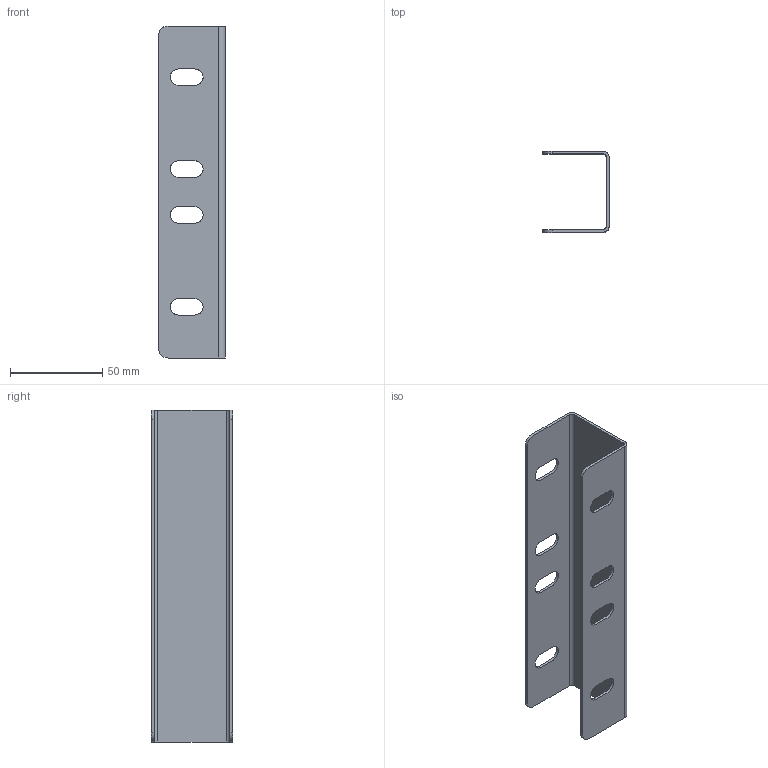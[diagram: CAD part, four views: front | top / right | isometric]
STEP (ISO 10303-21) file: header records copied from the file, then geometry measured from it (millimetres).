
FILE_DESCRIPTION(/* description */ (''),/* implementation_level */ '2;1');
FILE_NAME(/* name */ 'SSPM',/* time_stamp */ '2025-03-13T21:11:39+01:00',/* author */ (''),/* organization */ (''),/* preprocessor_version */ 'ST-DEVELOPER v16.5',/* originating_system */ '',/* authorisation */ '');
FILE_SCHEMA (('CONFIG_CONTROL_DESIGN'));
Length unit declared in the file: millimetre
Products named in the file (1): Document
Bounding box: 36 x 44 x 180 mm (x, y, z)
Volume: 28143.4 mm3; surface area: 38932.8 mm2
Topology: 1 solids, 1 shells, 50 faces, 144 edges, 96 vertices
Faces by surface type: plane 26, cylinder 24
Entity records: 1583 total; most frequent: CARTESIAN_POINT 586, ORIENTED_EDGE 288, EDGE_CURVE 144, VERTEX_POINT 96, EDGE_LOOP 66, DIRECTION 54, AXIS2_PLACEMENT_3D 52, ADVANCED_FACE 50
